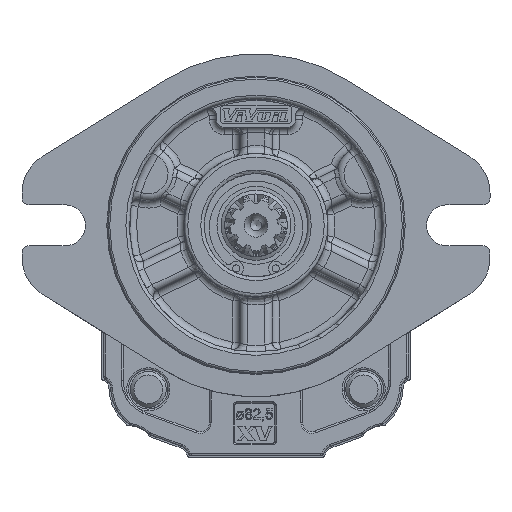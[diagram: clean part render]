
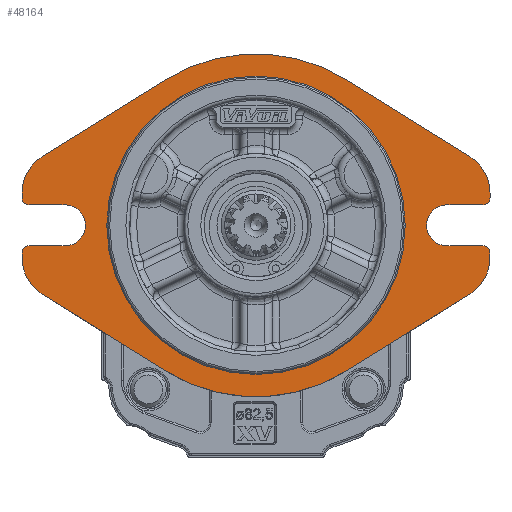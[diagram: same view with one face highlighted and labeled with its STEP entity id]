
A CAD part, front view. The second image highlights one B-rep face of the part: STEP entity #48164.
In plain terms, the highlighted planar face has unit normal (0, -1, 0).
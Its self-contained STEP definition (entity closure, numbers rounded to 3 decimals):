
#2848=LINE('',#68067,#4941);
#2852=LINE('',#68079,#4945);
#2853=LINE('',#68081,#4946);
#2860=LINE('',#68100,#4953);
#2861=LINE('',#68102,#4954);
#2868=LINE('',#68131,#4961);
#2869=LINE('',#68136,#4962);
#2870=LINE('',#68140,#4963);
#2871=LINE('',#68143,#4964);
#2872=LINE('',#68147,#4965);
#2873=LINE('',#68151,#4966);
#2874=LINE('',#68155,#4967);
#4941=VECTOR('',#55504,1000.);
#4945=VECTOR('',#55516,1000.);
#4946=VECTOR('',#55519,1000.);
#4953=VECTOR('',#55534,1000.);
#4954=VECTOR('',#55537,1000.);
#4961=VECTOR('',#55566,1000.);
#4962=VECTOR('',#55569,1000.);
#4963=VECTOR('',#55572,1000.);
#4964=VECTOR('',#55577,1000.);
#4965=VECTOR('',#55580,1000.);
#4966=VECTOR('',#55583,1000.);
#4967=VECTOR('',#55586,1000.);
#6683=PLANE('',#50713);
#10219=ORIENTED_EDGE('',*,*,#19532,.T.);
#10220=ORIENTED_EDGE('',*,*,#19533,.F.);
#10221=ORIENTED_EDGE('',*,*,#19534,.T.);
#10222=ORIENTED_EDGE('',*,*,#19535,.F.);
#10223=ORIENTED_EDGE('',*,*,#19536,.F.);
#10224=ORIENTED_EDGE('',*,*,#19537,.F.);
#10225=ORIENTED_EDGE('',*,*,#19453,.F.);
#10226=ORIENTED_EDGE('',*,*,#19502,.F.);
#10227=ORIENTED_EDGE('',*,*,#19505,.F.);
#10228=ORIENTED_EDGE('',*,*,#19508,.F.);
#10229=ORIENTED_EDGE('',*,*,#19538,.T.);
#10230=ORIENTED_EDGE('',*,*,#19509,.F.);
#10231=ORIENTED_EDGE('',*,*,#19515,.F.);
#10232=ORIENTED_EDGE('',*,*,#19518,.F.);
#10233=ORIENTED_EDGE('',*,*,#19539,.T.);
#10234=ORIENTED_EDGE('',*,*,#19519,.F.);
#10235=ORIENTED_EDGE('',*,*,#19531,.F.);
#10236=ORIENTED_EDGE('',*,*,#19540,.F.);
#10237=ORIENTED_EDGE('',*,*,#19541,.F.);
#10238=ORIENTED_EDGE('',*,*,#19542,.F.);
#10239=ORIENTED_EDGE('',*,*,#19543,.F.);
#10240=ORIENTED_EDGE('',*,*,#19544,.F.);
#10241=ORIENTED_EDGE('',*,*,#19545,.T.);
#10242=ORIENTED_EDGE('',*,*,#19546,.F.);
#10243=ORIENTED_EDGE('',*,*,#19547,.F.);
#19453=EDGE_CURVE('',#24257,#24258,#27031,.T.);
#19502=EDGE_CURVE('',#24300,#24257,#2848,.T.);
#19505=EDGE_CURVE('',#24302,#24300,#27059,.T.);
#19508=EDGE_CURVE('',#24304,#24302,#2852,.T.);
#19509=EDGE_CURVE('',#24305,#24306,#2853,.T.);
#19515=EDGE_CURVE('',#24310,#24305,#27061,.T.);
#19518=EDGE_CURVE('',#24312,#24310,#2860,.T.);
#19519=EDGE_CURVE('',#24313,#24314,#2861,.T.);
#19531=EDGE_CURVE('',#24322,#24313,#27067,.T.);
#19532=EDGE_CURVE('',#24323,#24323,#27068,.T.);
#19533=EDGE_CURVE('',#24324,#24325,#2868,.T.);
#19534=EDGE_CURVE('',#24324,#24326,#27069,.F.);
#19535=EDGE_CURVE('',#24327,#24326,#2869,.T.);
#19536=EDGE_CURVE('',#24328,#24327,#27070,.T.);
#19537=EDGE_CURVE('',#24258,#24328,#2870,.T.);
#19538=EDGE_CURVE('',#24304,#24306,#27071,.F.);
#19539=EDGE_CURVE('',#24312,#24314,#27072,.F.);
#19540=EDGE_CURVE('',#24329,#24322,#2871,.T.);
#19541=EDGE_CURVE('',#24330,#24329,#27073,.T.);
#19542=EDGE_CURVE('',#24331,#24330,#2872,.T.);
#19543=EDGE_CURVE('',#24332,#24331,#27074,.T.);
#19544=EDGE_CURVE('',#24333,#24332,#2873,.T.);
#19545=EDGE_CURVE('',#24333,#24334,#27075,.F.);
#19546=EDGE_CURVE('',#24335,#24334,#2874,.T.);
#19547=EDGE_CURVE('',#24325,#24335,#27076,.T.);
#24257=VERTEX_POINT('',#67942);
#24258=VERTEX_POINT('',#67944);
#24300=VERTEX_POINT('',#68066);
#24302=VERTEX_POINT('',#68072);
#24304=VERTEX_POINT('',#68078);
#24305=VERTEX_POINT('',#68082);
#24306=VERTEX_POINT('',#68083);
#24310=VERTEX_POINT('',#68093);
#24312=VERTEX_POINT('',#68099);
#24313=VERTEX_POINT('',#68103);
#24314=VERTEX_POINT('',#68104);
#24322=VERTEX_POINT('',#68126);
#24323=VERTEX_POINT('',#68130);
#24324=VERTEX_POINT('',#68132);
#24325=VERTEX_POINT('',#68133);
#24326=VERTEX_POINT('',#68135);
#24327=VERTEX_POINT('',#68137);
#24328=VERTEX_POINT('',#68139);
#24329=VERTEX_POINT('',#68144);
#24330=VERTEX_POINT('',#68146);
#24331=VERTEX_POINT('',#68148);
#24332=VERTEX_POINT('',#68150);
#24333=VERTEX_POINT('',#68152);
#24334=VERTEX_POINT('',#68154);
#24335=VERTEX_POINT('',#68156);
#27031=CIRCLE('',#50662,47.75);
#27059=CIRCLE('',#50696,12.);
#27061=CIRCLE('',#50701,5.7);
#27067=CIRCLE('',#50712,12.);
#27068=CIRCLE('',#50714,40.982);
#27069=CIRCLE('',#50715,2.);
#27070=CIRCLE('',#50716,12.);
#27071=CIRCLE('',#50717,2.);
#27072=CIRCLE('',#50718,2.);
#27073=CIRCLE('',#50719,47.75);
#27074=CIRCLE('',#50720,12.);
#27075=CIRCLE('',#50721,2.);
#27076=CIRCLE('',#50722,5.7);
#28859=EDGE_LOOP('',(#10219));
#28860=EDGE_LOOP('',(#10220,#10221,#10222,#10223,#10224,#10225,#10226,#10227,
#10228,#10229,#10230,#10231,#10232,#10233,#10234,#10235,#10236,#10237,#10238,
#10239,#10240,#10241,#10242,#10243));
#31231=FACE_BOUND('',#28859,.T.);
#31232=FACE_BOUND('',#28860,.T.);
#48164=ADVANCED_FACE('',(#31231,#31232),#6683,.F.);
#50662=AXIS2_PLACEMENT_3D('',#67943,#55420,#55421);
#50696=AXIS2_PLACEMENT_3D('',#68073,#55510,#55511);
#50701=AXIS2_PLACEMENT_3D('',#68094,#55528,#55529);
#50712=AXIS2_PLACEMENT_3D('',#68127,#55560,#55561);
#50713=AXIS2_PLACEMENT_3D('',#68128,#55562,#55563);
#50714=AXIS2_PLACEMENT_3D('',#68129,#55564,#55565);
#50715=AXIS2_PLACEMENT_3D('',#68134,#55567,#55568);
#50716=AXIS2_PLACEMENT_3D('',#68138,#55570,#55571);
#50717=AXIS2_PLACEMENT_3D('',#68141,#55573,#55574);
#50718=AXIS2_PLACEMENT_3D('',#68142,#55575,#55576);
#50719=AXIS2_PLACEMENT_3D('',#68145,#55578,#55579);
#50720=AXIS2_PLACEMENT_3D('',#68149,#55581,#55582);
#50721=AXIS2_PLACEMENT_3D('',#68153,#55584,#55585);
#50722=AXIS2_PLACEMENT_3D('',#68157,#55587,#55588);
#55420=DIRECTION('',(0.,1.,0.));
#55421=DIRECTION('',(-1.,0.,0.));
#55504=DIRECTION('',(-0.849,0.,-0.528));
#55510=DIRECTION('',(0.,1.,0.));
#55511=DIRECTION('',(-1.,0.,0.));
#55516=DIRECTION('',(0.,0.,-1.));
#55519=DIRECTION('',(1.,0.,0.));
#55528=DIRECTION('',(0.,-1.,0.));
#55529=DIRECTION('',(1.,0.,0.));
#55534=DIRECTION('',(-1.,0.,0.));
#55537=DIRECTION('',(0.,0.,-1.));
#55560=DIRECTION('',(0.,1.,0.));
#55561=DIRECTION('',(-1.,0.,0.));
#55562=DIRECTION('',(0.,1.,0.));
#55563=DIRECTION('',(0.,0.,-1.));
#55564=DIRECTION('',(0.,1.,0.));
#55565=DIRECTION('',(-1.,0.,0.));
#55566=DIRECTION('',(1.,0.,0.));
#55567=DIRECTION('',(0.,1.,0.));
#55568=DIRECTION('',(0.,0.,-1.));
#55569=DIRECTION('',(0.,0.,1.));
#55570=DIRECTION('',(0.,1.,0.));
#55571=DIRECTION('',(1.,0.,0.));
#55572=DIRECTION('',(-0.849,0.,0.528));
#55573=DIRECTION('',(0.,1.,0.));
#55574=DIRECTION('',(0.,0.,-1.));
#55575=DIRECTION('',(0.,1.,0.));
#55576=DIRECTION('',(0.,0.,-1.));
#55577=DIRECTION('',(0.849,0.,-0.528));
#55578=DIRECTION('',(0.,1.,0.));
#55579=DIRECTION('',(-1.,0.,0.));
#55580=DIRECTION('',(0.849,0.,0.528));
#55581=DIRECTION('',(0.,1.,0.));
#55582=DIRECTION('',(1.,0.,0.));
#55583=DIRECTION('',(0.,0.,1.));
#55584=DIRECTION('',(0.,1.,0.));
#55585=DIRECTION('',(0.,0.,-1.));
#55586=DIRECTION('',(-1.,0.,0.));
#55587=DIRECTION('',(0.,-1.,0.));
#55588=DIRECTION('',(-1.,0.,0.));
#67942=CARTESIAN_POINT('',(25.235,-19.,-24.837));
#67943=CARTESIAN_POINT('',(0.,-19.,15.7));
#67944=CARTESIAN_POINT('',(-25.235,-19.,-24.837));
#68066=CARTESIAN_POINT('',(59.532,-19.,-3.487));
#68067=CARTESIAN_POINT('',(59.532,-19.,-3.487));
#68072=CARTESIAN_POINT('',(65.19,-19.,6.7));
#68073=CARTESIAN_POINT('',(53.19,-19.,6.7));
#68078=CARTESIAN_POINT('',(65.19,-19.,8.));
#68079=CARTESIAN_POINT('',(65.19,-19.,6.7));
#68081=CARTESIAN_POINT('',(53.19,-19.,10.));
#68082=CARTESIAN_POINT('',(53.19,-19.,10.));
#68083=CARTESIAN_POINT('',(63.19,-19.,10.));
#68093=CARTESIAN_POINT('',(53.19,-19.,21.4));
#68094=CARTESIAN_POINT('',(53.19,-19.,15.7));
#68099=CARTESIAN_POINT('',(63.19,-19.,21.4));
#68100=CARTESIAN_POINT('',(53.19,-19.,21.4));
#68102=CARTESIAN_POINT('',(65.19,-19.,24.7));
#68103=CARTESIAN_POINT('',(65.19,-19.,24.7));
#68104=CARTESIAN_POINT('',(65.19,-19.,23.4));
#68126=CARTESIAN_POINT('',(59.532,-19.,34.887));
#68127=CARTESIAN_POINT('',(53.19,-19.,24.7));
#68128=CARTESIAN_POINT('',(0.,-19.,15.7));
#68129=CARTESIAN_POINT('',(0.,-19.,15.7));
#68130=CARTESIAN_POINT('',(-40.982,-19.,15.7));
#68131=CARTESIAN_POINT('',(-53.19,-19.,10.));
#68132=CARTESIAN_POINT('',(-63.19,-19.,10.));
#68133=CARTESIAN_POINT('',(-53.19,-19.,10.));
#68134=CARTESIAN_POINT('',(-63.19,-19.,8.));
#68135=CARTESIAN_POINT('',(-65.19,-19.,8.));
#68136=CARTESIAN_POINT('',(-65.19,-19.,6.7));
#68137=CARTESIAN_POINT('',(-65.19,-19.,6.7));
#68138=CARTESIAN_POINT('',(-53.19,-19.,6.7));
#68139=CARTESIAN_POINT('',(-59.532,-19.,-3.487));
#68140=CARTESIAN_POINT('',(-59.532,-19.,-3.487));
#68141=CARTESIAN_POINT('',(63.19,-19.,8.));
#68142=CARTESIAN_POINT('',(63.19,-19.,23.4));
#68143=CARTESIAN_POINT('',(25.235,-19.,56.237));
#68144=CARTESIAN_POINT('',(25.235,-19.,56.237));
#68145=CARTESIAN_POINT('',(0.,-19.,15.7));
#68146=CARTESIAN_POINT('',(-25.235,-19.,56.237));
#68147=CARTESIAN_POINT('',(-25.235,-19.,56.237));
#68148=CARTESIAN_POINT('',(-59.532,-19.,34.887));
#68149=CARTESIAN_POINT('',(-53.19,-19.,24.7));
#68150=CARTESIAN_POINT('',(-65.19,-19.,24.7));
#68151=CARTESIAN_POINT('',(-65.19,-19.,24.7));
#68152=CARTESIAN_POINT('',(-65.19,-19.,23.4));
#68153=CARTESIAN_POINT('',(-63.19,-19.,23.4));
#68154=CARTESIAN_POINT('',(-63.19,-19.,21.4));
#68155=CARTESIAN_POINT('',(-53.19,-19.,21.4));
#68156=CARTESIAN_POINT('',(-53.19,-19.,21.4));
#68157=CARTESIAN_POINT('',(-53.19,-19.,15.7));
